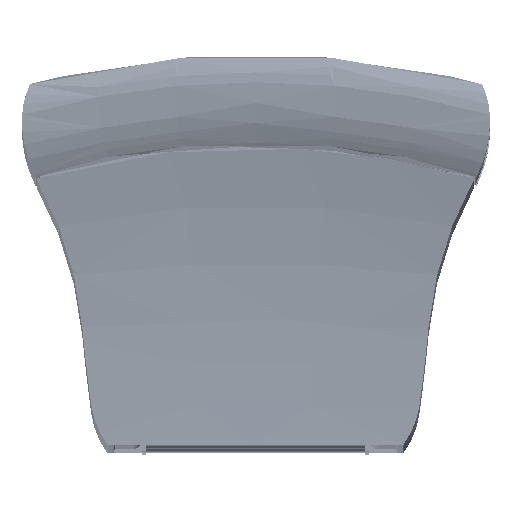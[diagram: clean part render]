
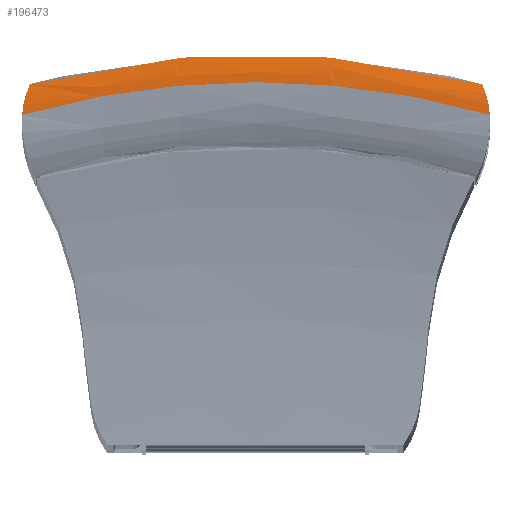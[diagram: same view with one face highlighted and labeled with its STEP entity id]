
A CAD part, top view. The second image highlights one B-rep face of the part: STEP entity #196473.
In plain terms, the highlighted toroidal (fillet/blend) face has major radius 330.55 mm and minor radius 35.918 mm.
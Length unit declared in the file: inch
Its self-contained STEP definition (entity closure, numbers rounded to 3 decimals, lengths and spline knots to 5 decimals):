
#4109 = DIRECTION ( 'NONE',  ( 0., 0., -1. ) ) ;
#9489 = CARTESIAN_POINT ( 'NONE',  ( 2.77197, -7.61943, 2.62527 ) ) ;
#15634 = EDGE_CURVE ( 'NONE', #36162, #97042, #83512, .T. ) ;
#22667 = CARTESIAN_POINT ( 'NONE',  ( -0.67286, 5.33864, 1.2673 ) ) ;
#23574 = CARTESIAN_POINT ( 'NONE',  ( -0.78488, 4.95174, 1.21161 ) ) ;
#35524 = EDGE_CURVE ( 'NONE', #36162, #58450, #77961, .T. ) ;
#36162 = VERTEX_POINT ( 'NONE', #53900 ) ;
#36996 = CARTESIAN_POINT ( 'NONE',  ( 6.249, 5.2649, 1.25017 ) ) ;
#42685 = EDGE_CURVE ( 'NONE', #92880, #97042, #226697, .T. ) ;
#49708 = DIRECTION ( 'NONE',  ( 1., 0., 0. ) ) ;
#53900 = CARTESIAN_POINT ( 'NONE',  ( 6.33595, 4.86989, 1.21143 ) ) ;
#54072 = VERTEX_POINT ( 'NONE', #93852 ) ;
#55938 = AXIS2_PLACEMENT_3D ( 'NONE', #129258, #4109, #192437 ) ;
#56410 = CARTESIAN_POINT ( 'NONE',  ( 6.27616, 5.18867, 1.23583 ) ) ;
#58450 = VERTEX_POINT ( 'NONE', #82667 ) ;
#61212 = CARTESIAN_POINT ( 'NONE',  ( -0.77199, 5.03299, 1.21628 ) ) ;
#67927 = CARTESIAN_POINT ( 'NONE',  ( 2.77197, -7.61943, 1.21143 ) ) ;
#74613 = CARTESIAN_POINT ( 'NONE',  ( 6.23373, 5.30217, 1.25833 ) ) ;
#77068 = EDGE_CURVE ( 'NONE', #58450, #54072, #137046, .T. ) ;
#77961 = CIRCLE ( 'NONE', #101418, 12.98788 ) ;
#82667 = CARTESIAN_POINT ( 'NONE',  ( 2.77197, 5.36845, 1.21143 ) ) ;
#83512 = B_SPLINE_CURVE_WITH_KNOTS ( 'NONE', 3,
 ( #166987, #129277, #112260, #203508, #56410, #36996, #74613, #148770 ),
 .UNSPECIFIED., .F., .F.,
 ( 4, 2, 2, 4 ),
 ( 0.00181, 0.008, 0.0111, 0.01419 ),
 .UNSPECIFIED. ) ;
#86618 = AXIS2_PLACEMENT_3D ( 'NONE', #227857, #171908, #132986 ) ;
#92880 = VERTEX_POINT ( 'NONE', #22667 ) ;
#93852 = CARTESIAN_POINT ( 'NONE',  ( -0.792, 4.86989, 1.21143 ) ) ;
#97042 = VERTEX_POINT ( 'NONE', #166280 ) ;
#101418 = AXIS2_PLACEMENT_3D ( 'NONE', #67927, #216254, #49708 ) ;
#101751 = FACE_OUTER_BOUND ( 'NONE', #225092, .T. ) ;
#102136 = AXIS2_PLACEMENT_3D ( 'NONE', #9489, #211211, #174685 ) ;
#112260 = CARTESIAN_POINT ( 'NONE',  ( 6.31813, 5.03148, 1.2149 ) ) ;
#117062 = CARTESIAN_POINT ( 'NONE',  ( -0.76371, 5.07284, 1.22003 ) ) ;
#129258 = CARTESIAN_POINT ( 'NONE',  ( 2.77197, -7.61943, 1.2673 ) ) ;
#129277 = CARTESIAN_POINT ( 'NONE',  ( 6.33079, 4.9514, 1.21002 ) ) ;
#132986 = DIRECTION ( 'NONE',  ( 1., 0., 0. ) ) ;
#133566 = ORIENTED_EDGE ( 'NONE', *, *, #35524, .T. ) ;
#134100 = CARTESIAN_POINT ( 'NONE',  ( -0.73365, 5.19028, 1.23481 ) ) ;
#136535 = CARTESIAN_POINT ( 'NONE',  ( -0.7894, 4.91087, 1.21072 ) ) ;
#137046 = CIRCLE ( 'NONE', #86618, 12.98788 ) ;
#137569 = ORIENTED_EDGE ( 'NONE', *, *, #42685, .T. ) ;
#148770 = CARTESIAN_POINT ( 'NONE',  ( 6.2168, 5.33864, 1.2673 ) ) ;
#152018 = B_SPLINE_CURVE_WITH_KNOTS ( 'NONE', 3,
 ( #226564, #209524, #134100, #117062, #61212, #23574, #136535, #170617 ),
 .UNSPECIFIED., .F., .F.,
 ( 4, 2, 2, 4 ),
 ( 0., 0.0062, 0.00929, 0.01239 ),
 .UNSPECIFIED. ) ;
#166280 = CARTESIAN_POINT ( 'NONE',  ( 6.2168, 5.33864, 1.2673 ) ) ;
#166987 = CARTESIAN_POINT ( 'NONE',  ( 6.33595, 4.86989, 1.21143 ) ) ;
#170617 = CARTESIAN_POINT ( 'NONE',  ( -0.792, 4.86989, 1.21143 ) ) ;
#171908 = DIRECTION ( 'NONE',  ( 0., 0., 1. ) ) ;
#174685 = DIRECTION ( 'NONE',  ( 1., 0., 0. ) ) ;
#175884 = TOROIDAL_SURFACE ( 'NONE', #102136, 13.01376, 1.41408 ) ;
#192437 = DIRECTION ( 'NONE',  ( 1., 0., 0. ) ) ;
#196473 = ADVANCED_FACE ( 'NONE', ( #101751 ), #175884, .T. ) ;
#203508 = CARTESIAN_POINT ( 'NONE',  ( 6.28808, 5.14956, 1.22964 ) ) ;
#205645 = ORIENTED_EDGE ( 'NONE', *, *, #15634, .F. ) ;
#209524 = CARTESIAN_POINT ( 'NONE',  ( -0.70668, 5.26576, 1.24937 ) ) ;
#211211 = DIRECTION ( 'NONE',  ( 0., 0., 1. ) ) ;
#213339 = ORIENTED_EDGE ( 'NONE', *, *, #77068, .T. ) ;
#216254 = DIRECTION ( 'NONE',  ( 0., 0., 1. ) ) ;
#218773 = ORIENTED_EDGE ( 'NONE', *, *, #225285, .F. ) ;
#225092 = EDGE_LOOP ( 'NONE', ( #133566, #213339, #218773, #137569, #205645 ) ) ;
#225285 = EDGE_CURVE ( 'NONE', #92880, #54072, #152018, .T. ) ;
#226564 = CARTESIAN_POINT ( 'NONE',  ( -0.67286, 5.33864, 1.2673 ) ) ;
#226697 = CIRCLE ( 'NONE', #55938, 13.40815 ) ;
#227857 = CARTESIAN_POINT ( 'NONE',  ( 2.77197, -7.61943, 1.21143 ) ) ;
